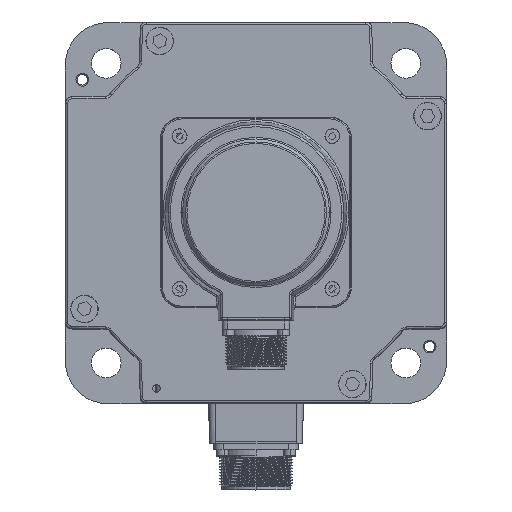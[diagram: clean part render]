
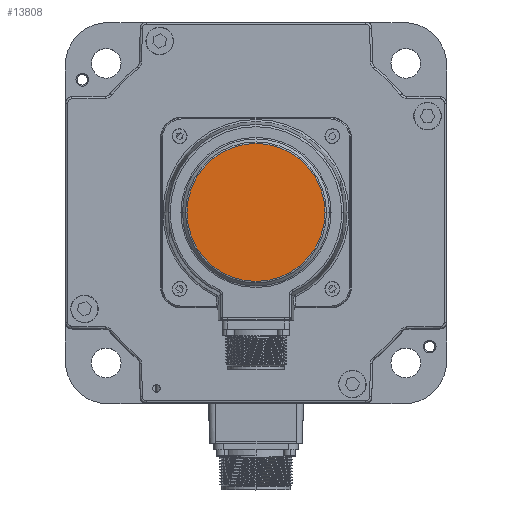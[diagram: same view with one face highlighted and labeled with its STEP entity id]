
A CAD part, top view. The second image highlights one B-rep face of the part: STEP entity #13808.
In plain terms, the highlighted planar face has unit normal (0, 0, 1).
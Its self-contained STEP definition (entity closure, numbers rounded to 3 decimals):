
#491 = CARTESIAN_POINT ( 'NONE',  ( 32.586, 0., 46.2 ) ) ;
#8629 = EDGE_CURVE ( 'NONE', #36683, #47010, #41883, .T. ) ;
#8796 = ORIENTED_EDGE ( 'NONE', *, *, #14658, .T. ) ;
#13534 = ORIENTED_EDGE ( 'NONE', *, *, #8629, .T. ) ;
#13808 = ADVANCED_FACE ( 'NONE', ( #26049 ), #44854, .T. ) ;
#14658 = EDGE_CURVE ( 'NONE', #47010, #36683, #51745, .T. ) ;
#26049 = FACE_OUTER_BOUND ( 'NONE', #29600, .T. ) ;
#29600 = EDGE_LOOP ( 'NONE', ( #13534, #8796 ) ) ;
#30315 = DIRECTION ( 'NONE',  ( -1., 0., 0. ) ) ;
#36683 = VERTEX_POINT ( 'NONE', #37202 ) ;
#37202 = CARTESIAN_POINT ( 'NONE',  ( -32.586, 0., 46.2 ) ) ;
#37686 = DIRECTION ( 'NONE',  ( 0., 0., 1. ) ) ;
#39173 = AXIS2_PLACEMENT_3D ( 'NONE', #51030, #37686, #42219 ) ;
#40906 = AXIS2_PLACEMENT_3D ( 'NONE', #57067, #48240, #43704 ) ;
#41883 = CIRCLE ( 'NONE', #40906, 32.586 ) ;
#42219 = DIRECTION ( 'NONE',  ( -1., 0., 0. ) ) ;
#43704 = DIRECTION ( 'NONE',  ( -1., 0., 0. ) ) ;
#44854 = PLANE ( 'NONE',  #46226 ) ;
#46226 = AXIS2_PLACEMENT_3D ( 'NONE', #53358, #53668, #30315 ) ;
#47010 = VERTEX_POINT ( 'NONE', #491 ) ;
#48240 = DIRECTION ( 'NONE',  ( 0., 0., 1. ) ) ;
#51030 = CARTESIAN_POINT ( 'NONE',  ( 0., 0., 46.2 ) ) ;
#51745 = CIRCLE ( 'NONE', #39173, 32.586 ) ;
#53358 = CARTESIAN_POINT ( 'NONE',  ( 0., 0., 46.2 ) ) ;
#53668 = DIRECTION ( 'NONE',  ( 0., 0., 1. ) ) ;
#57067 = CARTESIAN_POINT ( 'NONE',  ( 0., 0., 46.2 ) ) ;
